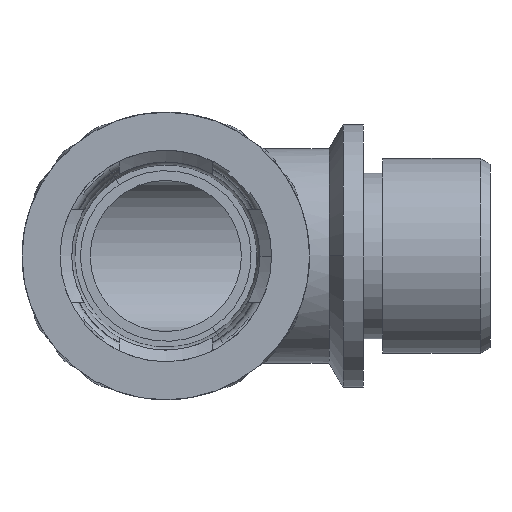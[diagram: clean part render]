
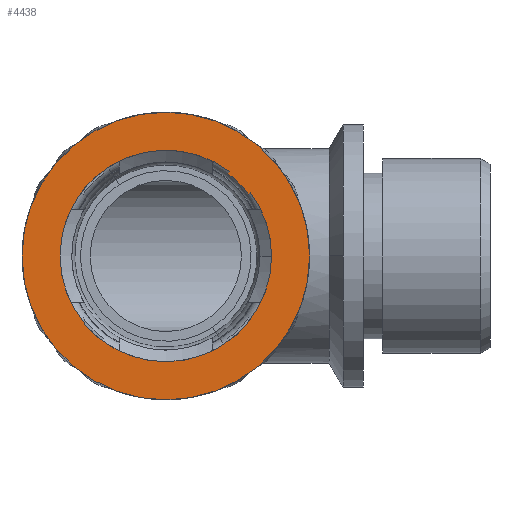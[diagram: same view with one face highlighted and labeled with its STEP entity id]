
A CAD part, front view. The second image highlights one B-rep face of the part: STEP entity #4438.
In plain terms, the highlighted planar face has unit normal (0, -1, 0) as drawn and (0, 0, 1) by its records, which use the part's own axes.
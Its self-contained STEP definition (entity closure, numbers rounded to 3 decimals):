
#173 = DIRECTION ( 'NONE',  ( 0., 0., 1. ) ) ;
#399 = AXIS2_PLACEMENT_3D ( 'NONE', #4456, #4904, #1891 ) ;
#509 = EDGE_CURVE ( 'NONE', #2768, #2938, #5810, .T. ) ;
#522 = AXIS2_PLACEMENT_3D ( 'NONE', #2394, #6124, #6244 ) ;
#614 = CIRCLE ( 'NONE', #6525, 10.85 ) ;
#747 = CIRCLE ( 'NONE', #2815, 10.85 ) ;
#926 = EDGE_LOOP ( 'NONE', ( #5787, #2551, #4523, #8921, #3549, #7502 ) ) ;
#937 = CARTESIAN_POINT ( 'NONE',  ( -14.75, 0., 19.5 ) ) ;
#1055 = CARTESIAN_POINT ( 'NONE',  ( 8.481, 6.359, 19.5 ) ) ;
#1113 = DIRECTION ( 'NONE',  ( 0., 0., 1. ) ) ;
#1192 = CARTESIAN_POINT ( 'NONE',  ( -17.356, -15.235, 19.5 ) ) ;
#1860 = DIRECTION ( 'NONE',  ( 1., 0., 0. ) ) ;
#1891 = DIRECTION ( 'NONE',  ( 1., 0., 0. ) ) ;
#1901 = DIRECTION ( 'NONE',  ( 1., 0., 0. ) ) ;
#1990 = CARTESIAN_POINT ( 'NONE',  ( -15.235, -17.356, 19.5 ) ) ;
#2394 = CARTESIAN_POINT ( 'NONE',  ( 0., 0., 19.5 ) ) ;
#2518 = AXIS2_PLACEMENT_3D ( 'NONE', #4762, #173, #4031 ) ;
#2551 = ORIENTED_EDGE ( 'NONE', *, *, #5005, .F. ) ;
#2693 = VERTEX_POINT ( 'NONE', #937 ) ;
#2709 = VERTEX_POINT ( 'NONE', #6253 ) ;
#2748 = EDGE_LOOP ( 'NONE', ( #4649, #4352 ) ) ;
#2768 = VERTEX_POINT ( 'NONE', #1055 ) ;
#2815 = AXIS2_PLACEMENT_3D ( 'NONE', #8682, #3553, #5828 ) ;
#2868 = CARTESIAN_POINT ( 'NONE',  ( 8.659, 6.538, 19.5 ) ) ;
#2938 = VERTEX_POINT ( 'NONE', #7834 ) ;
#2993 = EDGE_CURVE ( 'NONE', #7940, #2709, #747, .T. ) ;
#3549 = ORIENTED_EDGE ( 'NONE', *, *, #4676, .F. ) ;
#3553 = DIRECTION ( 'NONE',  ( 0., 0., 1. ) ) ;
#3664 = FACE_BOUND ( 'NONE', #926, .T. ) ;
#3992 = VECTOR ( 'NONE', #9409, 1000. ) ;
#4031 = DIRECTION ( 'NONE',  ( 1., 0., 0. ) ) ;
#4073 = CIRCLE ( 'NONE', #6417, 14.75 ) ;
#4352 = ORIENTED_EDGE ( 'NONE', *, *, #8055, .T. ) ;
#4426 = CARTESIAN_POINT ( 'NONE',  ( 14.75, 0., 19.5 ) ) ;
#4438 = ADVANCED_FACE ( 'NONE', ( #3664, #7721 ), #5348, .T. ) ;
#4456 = CARTESIAN_POINT ( 'NONE',  ( 0., 0., 19.5 ) ) ;
#4523 = ORIENTED_EDGE ( 'NONE', *, *, #509, .F. ) ;
#4649 = ORIENTED_EDGE ( 'NONE', *, *, #6254, .T. ) ;
#4676 = EDGE_CURVE ( 'NONE', #2709, #5741, #614, .T. ) ;
#4698 = CARTESIAN_POINT ( 'NONE',  ( -10.85, 0., 19.5 ) ) ;
#4762 = CARTESIAN_POINT ( 'NONE',  ( 0., 0., 19.5 ) ) ;
#4904 = DIRECTION ( 'NONE',  ( 0., 0., 1. ) ) ;
#4978 = AXIS2_PLACEMENT_3D ( 'NONE', #8303, #8964, #9068 ) ;
#5005 = EDGE_CURVE ( 'NONE', #2938, #7099, #7027, .T. ) ;
#5097 = CARTESIAN_POINT ( 'NONE',  ( 6.538, 8.659, 19.5 ) ) ;
#5348 = PLANE ( 'NONE',  #2518 ) ;
#5655 = DIRECTION ( 'NONE',  ( 0., 0., 1. ) ) ;
#5741 = VERTEX_POINT ( 'NONE', #2868 ) ;
#5787 = ORIENTED_EDGE ( 'NONE', *, *, #5974, .F. ) ;
#5810 = CIRCLE ( 'NONE', #399, 10.6 ) ;
#5828 = DIRECTION ( 'NONE',  ( 1., 0., 0. ) ) ;
#5974 = EDGE_CURVE ( 'NONE', #7099, #7940, #7606, .T. ) ;
#6124 = DIRECTION ( 'NONE',  ( 0., 0., 1. ) ) ;
#6161 = EDGE_CURVE ( 'NONE', #2768, #5741, #8509, .T. ) ;
#6244 = DIRECTION ( 'NONE',  ( 1., 0., 0. ) ) ;
#6253 = CARTESIAN_POINT ( 'NONE',  ( 10.85, 0., 19.5 ) ) ;
#6254 = EDGE_CURVE ( 'NONE', #2693, #7689, #6309, .T. ) ;
#6299 = CARTESIAN_POINT ( 'NONE',  ( 0., 0., 19.5 ) ) ;
#6309 = CIRCLE ( 'NONE', #522, 14.75 ) ;
#6417 = AXIS2_PLACEMENT_3D ( 'NONE', #6299, #1113, #1860 ) ;
#6525 = AXIS2_PLACEMENT_3D ( 'NONE', #9223, #5655, #1901 ) ;
#6692 = VECTOR ( 'NONE', #8585, 1000. ) ;
#7027 = LINE ( 'NONE', #1192, #6692 ) ;
#7099 = VERTEX_POINT ( 'NONE', #5097 ) ;
#7502 = ORIENTED_EDGE ( 'NONE', *, *, #2993, .F. ) ;
#7606 = CIRCLE ( 'NONE', #4978, 10.85 ) ;
#7689 = VERTEX_POINT ( 'NONE', #4426 ) ;
#7721 = FACE_OUTER_BOUND ( 'NONE', #2748, .T. ) ;
#7834 = CARTESIAN_POINT ( 'NONE',  ( 6.359, 8.481, 19.5 ) ) ;
#7940 = VERTEX_POINT ( 'NONE', #4698 ) ;
#8055 = EDGE_CURVE ( 'NONE', #7689, #2693, #4073, .T. ) ;
#8303 = CARTESIAN_POINT ( 'NONE',  ( 0., 0., 19.5 ) ) ;
#8509 = LINE ( 'NONE', #1990, #3992 ) ;
#8585 = DIRECTION ( 'NONE',  ( 0.707, 0.707, 0. ) ) ;
#8682 = CARTESIAN_POINT ( 'NONE',  ( 0., 0., 19.5 ) ) ;
#8921 = ORIENTED_EDGE ( 'NONE', *, *, #6161, .T. ) ;
#8964 = DIRECTION ( 'NONE',  ( 0., 0., 1. ) ) ;
#9068 = DIRECTION ( 'NONE',  ( 1., 0., 0. ) ) ;
#9223 = CARTESIAN_POINT ( 'NONE',  ( 0., 0., 19.5 ) ) ;
#9409 = DIRECTION ( 'NONE',  ( 0.707, 0.707, 0. ) ) ;
